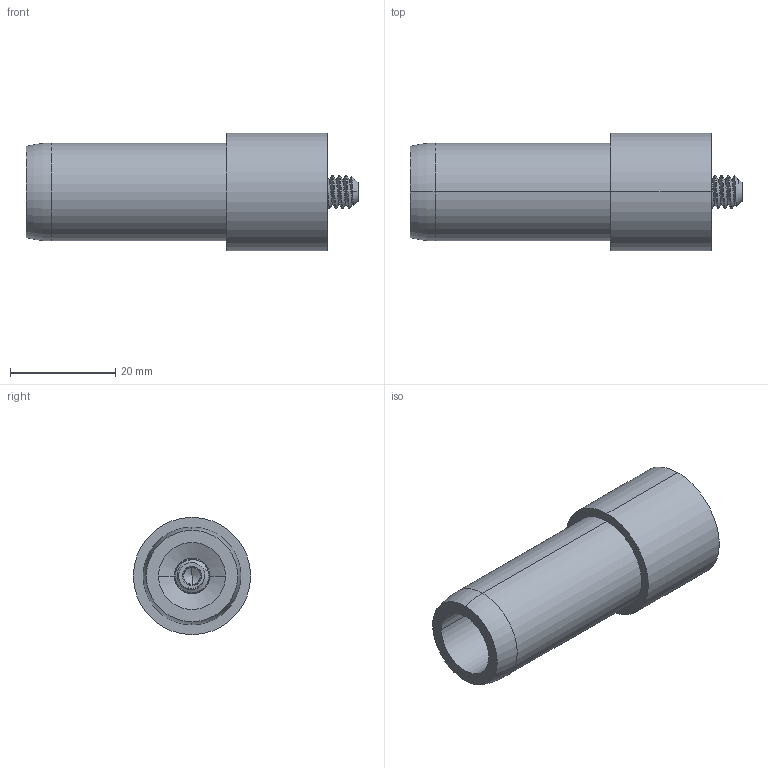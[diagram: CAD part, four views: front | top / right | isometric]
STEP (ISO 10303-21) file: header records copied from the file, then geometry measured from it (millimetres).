
FILE_DESCRIPTION (( 'STEP AP214' ), '1' );
FILE_NAME ('Camera Mount for 0.75 Inch tube.STEP', '2014-01-08T21:40:03', ( 'ydmin' ), ( 'Microsoft' ), 'SwSTEP 2.0', 'SolidWorks 2013', '' );
FILE_SCHEMA (( 'AUTOMOTIVE_DESIGN' ));
Length unit declared in the file: inch
Products named in the file (1): Camera Mount for 0.75 Inch tube
Bounding box: 62.99 x 22.23 x 22.23 mm (x, y, z)
Volume: 12586.8 mm3; surface area: 7588.5 mm2
Topology: 3 solids, 3 shells, 84 faces, 207 edges, 129 vertices
Faces by surface type: cylinder 36, plane 19, cone 16, bspline 11, torus 2
Entity records: 9407 total; most frequent: CARTESIAN_POINT 6524, ORIENTED_EDGE 410, DIRECTION 308, EDGE_CURVE 205, VERTEX_POINT 129, AXIS2_PLACEMENT_3D 115, DIMENSIONAL_EXPONENTS 89, UNCERTAINTY_MEASURE_WITH_UNIT 89
